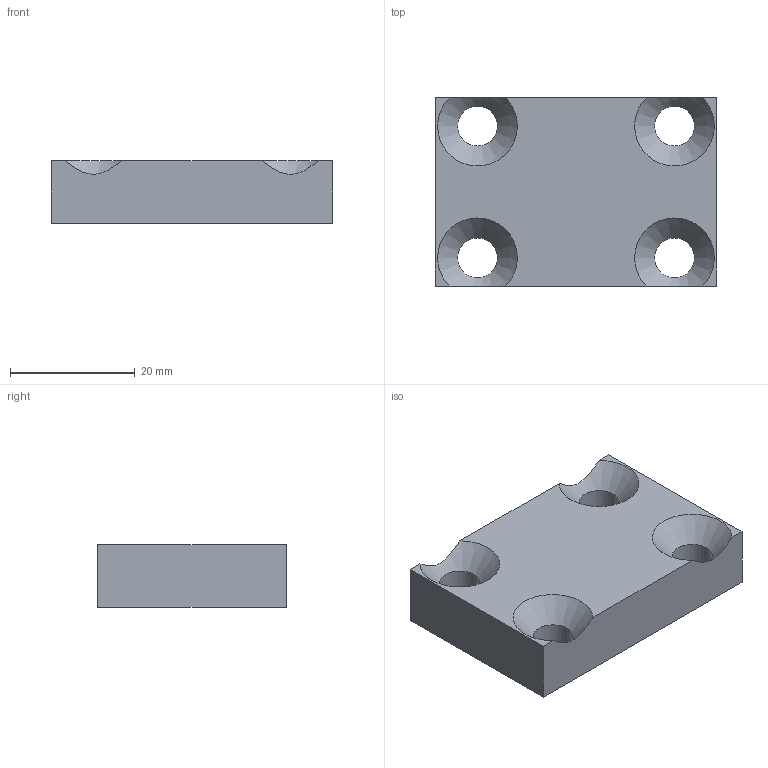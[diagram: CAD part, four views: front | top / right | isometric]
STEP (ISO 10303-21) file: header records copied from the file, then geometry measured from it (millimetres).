
FILE_DESCRIPTION(('Mechanical CAD reference from nasji.com'),'2;1');
FILE_NAME('NASJI.step','',(''),(''),'','NASJI distribution','');
FILE_SCHEMA(('AUTOMOTIVE_DESIGN { 1 0 10303 214 1 1 1 1 }'));
Length unit declared in the file: millimetre
Products named in the file (1): Open CASCADE STEP translator 7.8 81
Bounding box: 45.17 x 30.2 x 10 mm (x, y, z)
Volume: 11761.7 mm3; surface area: 4614.4 mm2
Topology: 1 solids, 1 shells, 14 faces, 44 edges, 28 vertices
Faces by surface type: plane 6, cone 4, cylinder 4
Full cylindrical faces by diameter (mm): 6.4 x4
Entity records: 1178 total; most frequent: CARTESIAN_POINT 315, DIRECTION 162, LINE 92, VECTOR 92, ORIENTED_EDGE 88, PCURVE 88, DEFINITIONAL_REPRESENTATION 88, EDGE_CURVE 44
